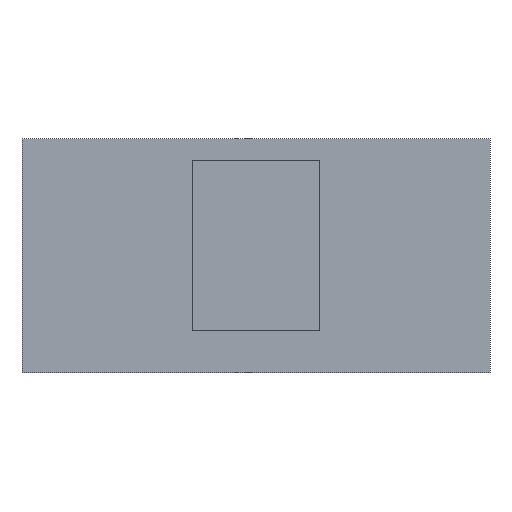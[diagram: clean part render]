
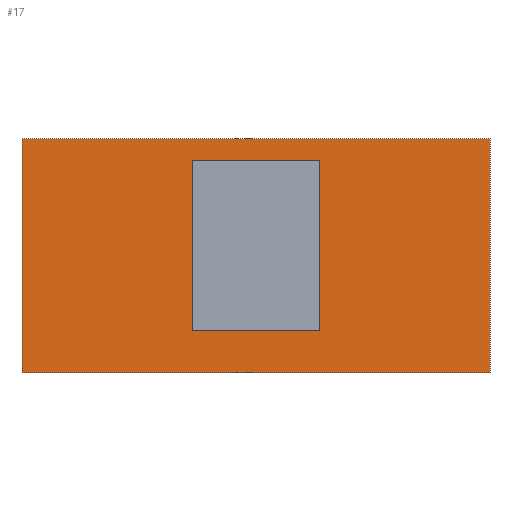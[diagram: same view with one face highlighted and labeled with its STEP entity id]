
A CAD part, left-side view. The second image highlights one B-rep face of the part: STEP entity #17.
In plain terms, the highlighted planar face has unit normal (-1, 0, 0).
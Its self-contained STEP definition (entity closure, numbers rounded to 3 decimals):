
#17 = ADVANCED_FACE('',(#18,#137),#32,.F.);
#18 = FACE_BOUND('',#19,.F.);
#19 = EDGE_LOOP('',(#20,#55,#83,#111));
#20 = ORIENTED_EDGE('',*,*,#21,.F.);
#21 = EDGE_CURVE('',#22,#24,#26,.T.);
#22 = VERTEX_POINT('',#23);
#23 = CARTESIAN_POINT('',(-59.575,23.2,-8.2));
#24 = VERTEX_POINT('',#25);
#25 = CARTESIAN_POINT('',(-59.575,23.2,2.8));
#26 = SURFACE_CURVE('',#27,(#31,#43),.PCURVE_S1.);
#27 = LINE('',#28,#29);
#28 = CARTESIAN_POINT('',(-59.575,23.2,-8.2));
#29 = VECTOR('',#30,1.);
#30 = DIRECTION('',(0.,0.,1.));
#31 = PCURVE('',#32,#37);
#32 = PLANE('',#33);
#33 = AXIS2_PLACEMENT_3D('',#34,#35,#36);
#34 = CARTESIAN_POINT('',(-59.575,23.2,-8.2));
#35 = DIRECTION('',(1.,0.,0.));
#36 = DIRECTION('',(0.,0.,1.));
#37 = DEFINITIONAL_REPRESENTATION('',(#38),#42);
#38 = LINE('',#39,#40);
#39 = CARTESIAN_POINT('',(0.,0.));
#40 = VECTOR('',#41,1.);
#41 = DIRECTION('',(1.,0.));
#42 = ( GEOMETRIC_REPRESENTATION_CONTEXT(2) 
PARAMETRIC_REPRESENTATION_CONTEXT() REPRESENTATION_CONTEXT('2D SPACE',''
  ) );
#43 = PCURVE('',#44,#49);
#44 = PLANE('',#45);
#45 = AXIS2_PLACEMENT_3D('',#46,#47,#48);
#46 = CARTESIAN_POINT('',(-59.575,23.2,-8.2));
#47 = DIRECTION('',(0.,1.,0.));
#48 = DIRECTION('',(0.,0.,1.));
#49 = DEFINITIONAL_REPRESENTATION('',(#50),#54);
#50 = LINE('',#51,#52);
#51 = CARTESIAN_POINT('',(0.,0.));
#52 = VECTOR('',#53,1.);
#53 = DIRECTION('',(1.,0.));
#54 = ( GEOMETRIC_REPRESENTATION_CONTEXT(2) 
PARAMETRIC_REPRESENTATION_CONTEXT() REPRESENTATION_CONTEXT('2D SPACE',''
  ) );
#55 = ORIENTED_EDGE('',*,*,#56,.T.);
#56 = EDGE_CURVE('',#22,#57,#59,.T.);
#57 = VERTEX_POINT('',#58);
#58 = CARTESIAN_POINT('',(-59.575,45.2,-8.2));
#59 = SURFACE_CURVE('',#60,(#64,#71),.PCURVE_S1.);
#60 = LINE('',#61,#62);
#61 = CARTESIAN_POINT('',(-59.575,23.2,-8.2));
#62 = VECTOR('',#63,1.);
#63 = DIRECTION('',(0.,1.,0.));
#64 = PCURVE('',#32,#65);
#65 = DEFINITIONAL_REPRESENTATION('',(#66),#70);
#66 = LINE('',#67,#68);
#67 = CARTESIAN_POINT('',(0.,0.));
#68 = VECTOR('',#69,1.);
#69 = DIRECTION('',(0.,-1.));
#70 = ( GEOMETRIC_REPRESENTATION_CONTEXT(2) 
PARAMETRIC_REPRESENTATION_CONTEXT() REPRESENTATION_CONTEXT('2D SPACE',''
  ) );
#71 = PCURVE('',#72,#77);
#72 = PLANE('',#73);
#73 = AXIS2_PLACEMENT_3D('',#74,#75,#76);
#74 = CARTESIAN_POINT('',(-59.575,23.2,-8.2));
#75 = DIRECTION('',(0.,0.,1.));
#76 = DIRECTION('',(1.,0.,0.));
#77 = DEFINITIONAL_REPRESENTATION('',(#78),#82);
#78 = LINE('',#79,#80);
#79 = CARTESIAN_POINT('',(0.,0.));
#80 = VECTOR('',#81,1.);
#81 = DIRECTION('',(0.,1.));
#82 = ( GEOMETRIC_REPRESENTATION_CONTEXT(2) 
PARAMETRIC_REPRESENTATION_CONTEXT() REPRESENTATION_CONTEXT('2D SPACE',''
  ) );
#83 = ORIENTED_EDGE('',*,*,#84,.T.);
#84 = EDGE_CURVE('',#57,#85,#87,.T.);
#85 = VERTEX_POINT('',#86);
#86 = CARTESIAN_POINT('',(-59.575,45.2,2.8));
#87 = SURFACE_CURVE('',#88,(#92,#99),.PCURVE_S1.);
#88 = LINE('',#89,#90);
#89 = CARTESIAN_POINT('',(-59.575,45.2,-8.2));
#90 = VECTOR('',#91,1.);
#91 = DIRECTION('',(0.,0.,1.));
#92 = PCURVE('',#32,#93);
#93 = DEFINITIONAL_REPRESENTATION('',(#94),#98);
#94 = LINE('',#95,#96);
#95 = CARTESIAN_POINT('',(0.,-22.));
#96 = VECTOR('',#97,1.);
#97 = DIRECTION('',(1.,0.));
#98 = ( GEOMETRIC_REPRESENTATION_CONTEXT(2) 
PARAMETRIC_REPRESENTATION_CONTEXT() REPRESENTATION_CONTEXT('2D SPACE',''
  ) );
#99 = PCURVE('',#100,#105);
#100 = PLANE('',#101);
#101 = AXIS2_PLACEMENT_3D('',#102,#103,#104);
#102 = CARTESIAN_POINT('',(-59.575,45.2,-8.2));
#103 = DIRECTION('',(0.,1.,0.));
#104 = DIRECTION('',(0.,0.,1.));
#105 = DEFINITIONAL_REPRESENTATION('',(#106),#110);
#106 = LINE('',#107,#108);
#107 = CARTESIAN_POINT('',(0.,0.));
#108 = VECTOR('',#109,1.);
#109 = DIRECTION('',(1.,0.));
#110 = ( GEOMETRIC_REPRESENTATION_CONTEXT(2) 
PARAMETRIC_REPRESENTATION_CONTEXT() REPRESENTATION_CONTEXT('2D SPACE',''
  ) );
#111 = ORIENTED_EDGE('',*,*,#112,.F.);
#112 = EDGE_CURVE('',#24,#85,#113,.T.);
#113 = SURFACE_CURVE('',#114,(#118,#125),.PCURVE_S1.);
#114 = LINE('',#115,#116);
#115 = CARTESIAN_POINT('',(-59.575,23.2,2.8));
#116 = VECTOR('',#117,1.);
#117 = DIRECTION('',(0.,1.,0.));
#118 = PCURVE('',#32,#119);
#119 = DEFINITIONAL_REPRESENTATION('',(#120),#124);
#120 = LINE('',#121,#122);
#121 = CARTESIAN_POINT('',(11.,0.));
#122 = VECTOR('',#123,1.);
#123 = DIRECTION('',(0.,-1.));
#124 = ( GEOMETRIC_REPRESENTATION_CONTEXT(2) 
PARAMETRIC_REPRESENTATION_CONTEXT() REPRESENTATION_CONTEXT('2D SPACE',''
  ) );
#125 = PCURVE('',#126,#131);
#126 = PLANE('',#127);
#127 = AXIS2_PLACEMENT_3D('',#128,#129,#130);
#128 = CARTESIAN_POINT('',(-59.575,23.2,2.8));
#129 = DIRECTION('',(0.,0.,1.));
#130 = DIRECTION('',(1.,0.,0.));
#131 = DEFINITIONAL_REPRESENTATION('',(#132),#136);
#132 = LINE('',#133,#134);
#133 = CARTESIAN_POINT('',(0.,0.));
#134 = VECTOR('',#135,1.);
#135 = DIRECTION('',(0.,1.));
#136 = ( GEOMETRIC_REPRESENTATION_CONTEXT(2) 
PARAMETRIC_REPRESENTATION_CONTEXT() REPRESENTATION_CONTEXT('2D SPACE',''
  ) );
#137 = FACE_BOUND('',#138,.F.);
#138 = EDGE_LOOP('',(#139,#169,#197,#225));
#139 = ORIENTED_EDGE('',*,*,#140,.T.);
#140 = EDGE_CURVE('',#141,#143,#145,.T.);
#141 = VERTEX_POINT('',#142);
#142 = CARTESIAN_POINT('',(-59.575,31.2,-6.2));
#143 = VERTEX_POINT('',#144);
#144 = CARTESIAN_POINT('',(-59.575,31.2,1.8));
#145 = SURFACE_CURVE('',#146,(#150,#157),.PCURVE_S1.);
#146 = LINE('',#147,#148);
#147 = CARTESIAN_POINT('',(-59.575,31.2,-6.2));
#148 = VECTOR('',#149,1.);
#149 = DIRECTION('',(0.,0.,1.));
#150 = PCURVE('',#32,#151);
#151 = DEFINITIONAL_REPRESENTATION('',(#152),#156);
#152 = LINE('',#153,#154);
#153 = CARTESIAN_POINT('',(2.,-8.));
#154 = VECTOR('',#155,1.);
#155 = DIRECTION('',(1.,0.));
#156 = ( GEOMETRIC_REPRESENTATION_CONTEXT(2) 
PARAMETRIC_REPRESENTATION_CONTEXT() REPRESENTATION_CONTEXT('2D SPACE',''
  ) );
#157 = PCURVE('',#158,#163);
#158 = PLANE('',#159);
#159 = AXIS2_PLACEMENT_3D('',#160,#161,#162);
#160 = CARTESIAN_POINT('',(-61.575,31.2,-6.2));
#161 = DIRECTION('',(0.,1.,0.));
#162 = DIRECTION('',(0.,0.,1.));
#163 = DEFINITIONAL_REPRESENTATION('',(#164),#168);
#164 = LINE('',#165,#166);
#165 = CARTESIAN_POINT('',(0.,2.));
#166 = VECTOR('',#167,1.);
#167 = DIRECTION('',(1.,0.));
#168 = ( GEOMETRIC_REPRESENTATION_CONTEXT(2) 
PARAMETRIC_REPRESENTATION_CONTEXT() REPRESENTATION_CONTEXT('2D SPACE',''
  ) );
#169 = ORIENTED_EDGE('',*,*,#170,.T.);
#170 = EDGE_CURVE('',#143,#171,#173,.T.);
#171 = VERTEX_POINT('',#172);
#172 = CARTESIAN_POINT('',(-59.575,37.2,1.8));
#173 = SURFACE_CURVE('',#174,(#178,#185),.PCURVE_S1.);
#174 = LINE('',#175,#176);
#175 = CARTESIAN_POINT('',(-59.575,31.2,1.8));
#176 = VECTOR('',#177,1.);
#177 = DIRECTION('',(0.,1.,0.));
#178 = PCURVE('',#32,#179);
#179 = DEFINITIONAL_REPRESENTATION('',(#180),#184);
#180 = LINE('',#181,#182);
#181 = CARTESIAN_POINT('',(10.,-8.));
#182 = VECTOR('',#183,1.);
#183 = DIRECTION('',(0.,-1.));
#184 = ( GEOMETRIC_REPRESENTATION_CONTEXT(2) 
PARAMETRIC_REPRESENTATION_CONTEXT() REPRESENTATION_CONTEXT('2D SPACE',''
  ) );
#185 = PCURVE('',#186,#191);
#186 = PLANE('',#187);
#187 = AXIS2_PLACEMENT_3D('',#188,#189,#190);
#188 = CARTESIAN_POINT('',(-61.575,31.2,1.8));
#189 = DIRECTION('',(0.,0.,1.));
#190 = DIRECTION('',(1.,0.,0.));
#191 = DEFINITIONAL_REPRESENTATION('',(#192),#196);
#192 = LINE('',#193,#194);
#193 = CARTESIAN_POINT('',(2.,0.));
#194 = VECTOR('',#195,1.);
#195 = DIRECTION('',(0.,1.));
#196 = ( GEOMETRIC_REPRESENTATION_CONTEXT(2) 
PARAMETRIC_REPRESENTATION_CONTEXT() REPRESENTATION_CONTEXT('2D SPACE',''
  ) );
#197 = ORIENTED_EDGE('',*,*,#198,.F.);
#198 = EDGE_CURVE('',#199,#171,#201,.T.);
#199 = VERTEX_POINT('',#200);
#200 = CARTESIAN_POINT('',(-59.575,37.2,-6.2));
#201 = SURFACE_CURVE('',#202,(#206,#213),.PCURVE_S1.);
#202 = LINE('',#203,#204);
#203 = CARTESIAN_POINT('',(-59.575,37.2,-6.2));
#204 = VECTOR('',#205,1.);
#205 = DIRECTION('',(0.,0.,1.));
#206 = PCURVE('',#32,#207);
#207 = DEFINITIONAL_REPRESENTATION('',(#208),#212);
#208 = LINE('',#209,#210);
#209 = CARTESIAN_POINT('',(2.,-14.));
#210 = VECTOR('',#211,1.);
#211 = DIRECTION('',(1.,0.));
#212 = ( GEOMETRIC_REPRESENTATION_CONTEXT(2) 
PARAMETRIC_REPRESENTATION_CONTEXT() REPRESENTATION_CONTEXT('2D SPACE',''
  ) );
#213 = PCURVE('',#214,#219);
#214 = PLANE('',#215);
#215 = AXIS2_PLACEMENT_3D('',#216,#217,#218);
#216 = CARTESIAN_POINT('',(-61.575,37.2,-6.2));
#217 = DIRECTION('',(0.,1.,0.));
#218 = DIRECTION('',(0.,0.,1.));
#219 = DEFINITIONAL_REPRESENTATION('',(#220),#224);
#220 = LINE('',#221,#222);
#221 = CARTESIAN_POINT('',(0.,2.));
#222 = VECTOR('',#223,1.);
#223 = DIRECTION('',(1.,0.));
#224 = ( GEOMETRIC_REPRESENTATION_CONTEXT(2) 
PARAMETRIC_REPRESENTATION_CONTEXT() REPRESENTATION_CONTEXT('2D SPACE',''
  ) );
#225 = ORIENTED_EDGE('',*,*,#226,.F.);
#226 = EDGE_CURVE('',#141,#199,#227,.T.);
#227 = SURFACE_CURVE('',#228,(#232,#239),.PCURVE_S1.);
#228 = LINE('',#229,#230);
#229 = CARTESIAN_POINT('',(-59.575,31.2,-6.2));
#230 = VECTOR('',#231,1.);
#231 = DIRECTION('',(0.,1.,0.));
#232 = PCURVE('',#32,#233);
#233 = DEFINITIONAL_REPRESENTATION('',(#234),#238);
#234 = LINE('',#235,#236);
#235 = CARTESIAN_POINT('',(2.,-8.));
#236 = VECTOR('',#237,1.);
#237 = DIRECTION('',(0.,-1.));
#238 = ( GEOMETRIC_REPRESENTATION_CONTEXT(2) 
PARAMETRIC_REPRESENTATION_CONTEXT() REPRESENTATION_CONTEXT('2D SPACE',''
  ) );
#239 = PCURVE('',#240,#245);
#240 = PLANE('',#241);
#241 = AXIS2_PLACEMENT_3D('',#242,#243,#244);
#242 = CARTESIAN_POINT('',(-61.575,31.2,-6.2));
#243 = DIRECTION('',(0.,0.,1.));
#244 = DIRECTION('',(1.,0.,0.));
#245 = DEFINITIONAL_REPRESENTATION('',(#246),#250);
#246 = LINE('',#247,#248);
#247 = CARTESIAN_POINT('',(2.,0.));
#248 = VECTOR('',#249,1.);
#249 = DIRECTION('',(0.,1.));
#250 = ( GEOMETRIC_REPRESENTATION_CONTEXT(2) 
PARAMETRIC_REPRESENTATION_CONTEXT() REPRESENTATION_CONTEXT('2D SPACE',''
  ) );
